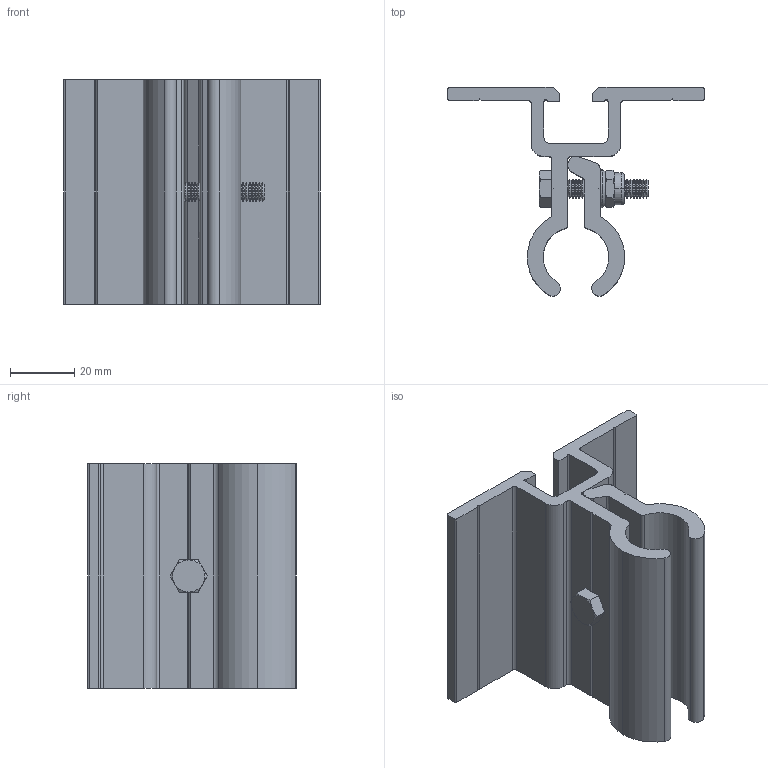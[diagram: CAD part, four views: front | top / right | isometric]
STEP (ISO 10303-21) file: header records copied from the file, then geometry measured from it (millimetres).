
FILE_DESCRIPTION (( 'STEP AP203' ), '1' );
FILE_NAME ('084.106.177.STEP', '2013-01-23T12:10:48', ( 'Alusic' ), ( 'Alusic' ), 'SwSTEP 2.0', 'SolidWorks 2011', '' );
FILE_SCHEMA (( 'CONFIG_CONTROL_DESIGN' ));
Length unit declared in the file: millimetre
Products named in the file (6): hex bolt gradeb_iso_ISO 4015 - M6 x 30 x 30-S; 084.106.177; plain washer chamfered grade a_iso_Washer ISO 7090 - 6; torque nut 08_iso_ISO 10511-M6-N; PRT.137.PARTE2; PRT.137.PARTE1
Assembly tree (5 placements, depth 2):
  084.106.177
    PRT.137.PARTE2
    PRT.137.PARTE1
    hex bolt gradeb_iso_ISO 4015 - M6 x 30 x 30-S
    plain washer chamfered grade a_iso_Washer ISO 7090 - 6
    torque nut 08_iso_ISO 10511-M6-N
Bounding box: 80 x 65.02 x 70 mm (x, y, z)
Volume: 69914.4 mm3; surface area: 35576.7 mm2
Topology: 5 solids, 5 shells, 317 faces, 832 edges, 524 vertices
Faces by surface type: cone 140, cylinder 109, plane 66, torus 2
Entity records: 10615 total; most frequent: CARTESIAN_POINT 1906, DIRECTION 1850, ORIENTED_EDGE 1664, EDGE_CURVE 832, AXIS2_PLACEMENT_3D 740, VERTEX_POINT 524, CIRCLE 415, VECTOR 370
